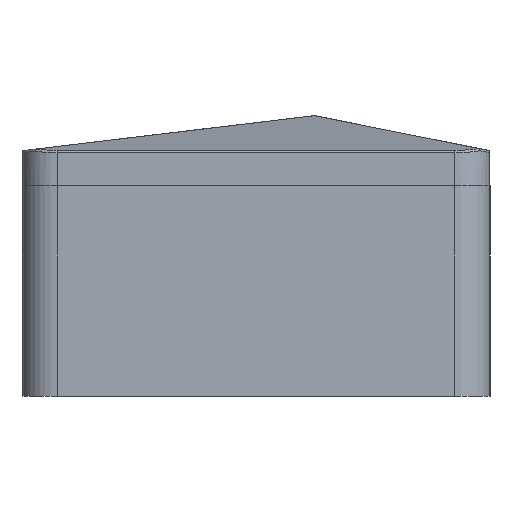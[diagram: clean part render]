
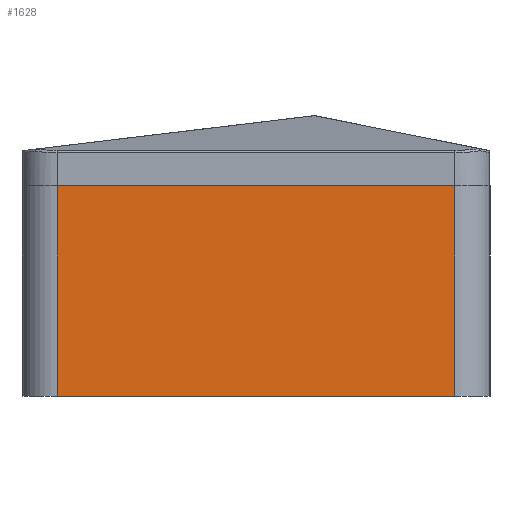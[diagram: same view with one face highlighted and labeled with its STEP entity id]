
A CAD part, left-side view. The second image highlights one B-rep face of the part: STEP entity #1628.
In plain terms, the highlighted planar face has unit normal (-1, 0, 0).
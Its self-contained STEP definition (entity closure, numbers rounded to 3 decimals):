
#16 = CARTESIAN_POINT ( 'NONE',  ( -71., -17., -9. ) ) ;
#30 = LINE ( 'NONE', #483, #2472 ) ;
#151 = DIRECTION ( 'NONE',  ( 0., 0., 1. ) ) ;
#201 = PLANE ( 'NONE',  #2237 ) ;
#226 = DIRECTION ( 'NONE',  ( 0., -1., 0. ) ) ;
#267 = LINE ( 'NONE', #1368, #2717 ) ;
#304 = CARTESIAN_POINT ( 'NONE',  ( -71., -17., 9. ) ) ;
#322 = VERTEX_POINT ( 'NONE', #2385 ) ;
#344 = VECTOR ( 'NONE', #151, 1000. ) ;
#364 = ORIENTED_EDGE ( 'NONE', *, *, #1855, .T. ) ;
#483 = CARTESIAN_POINT ( 'NONE',  ( -71., -20., 9. ) ) ;
#520 = EDGE_CURVE ( 'NONE', #1651, #2366, #2445, .T. ) ;
#608 = VECTOR ( 'NONE', #226, 1000. ) ;
#632 = CARTESIAN_POINT ( 'NONE',  ( -71., -17., 9. ) ) ;
#920 = DIRECTION ( 'NONE',  ( 0., 0., -1. ) ) ;
#1109 = VERTEX_POINT ( 'NONE', #304 ) ;
#1368 = CARTESIAN_POINT ( 'NONE',  ( -71., 17., 9. ) ) ;
#1620 = CARTESIAN_POINT ( 'NONE',  ( -71., -20., 9. ) ) ;
#1628 = ADVANCED_FACE ( 'NONE', ( #2752 ), #201, .F. ) ;
#1651 = VERTEX_POINT ( 'NONE', #2812 ) ;
#1719 = EDGE_CURVE ( 'NONE', #322, #1109, #30, .T. ) ;
#1837 = EDGE_CURVE ( 'NONE', #2366, #1109, #2243, .T. ) ;
#1855 = EDGE_CURVE ( 'NONE', #322, #1651, #267, .T. ) ;
#2229 = CARTESIAN_POINT ( 'NONE',  ( -71., -20., -9. ) ) ;
#2237 = AXIS2_PLACEMENT_3D ( 'NONE', #1620, #2343, #920 ) ;
#2243 = LINE ( 'NONE', #632, #344 ) ;
#2253 = DIRECTION ( 'NONE',  ( 0., -1., 0. ) ) ;
#2335 = ORIENTED_EDGE ( 'NONE', *, *, #1837, .T. ) ;
#2343 = DIRECTION ( 'NONE',  ( 1., 0., 0. ) ) ;
#2366 = VERTEX_POINT ( 'NONE', #16 ) ;
#2385 = CARTESIAN_POINT ( 'NONE',  ( -71., 17., 9. ) ) ;
#2445 = LINE ( 'NONE', #2229, #608 ) ;
#2472 = VECTOR ( 'NONE', #2253, 1000. ) ;
#2717 = VECTOR ( 'NONE', #2780, 1000. ) ;
#2735 = ORIENTED_EDGE ( 'NONE', *, *, #1719, .F. ) ;
#2752 = FACE_OUTER_BOUND ( 'NONE', #2916, .T. ) ;
#2780 = DIRECTION ( 'NONE',  ( 0., 0., -1. ) ) ;
#2812 = CARTESIAN_POINT ( 'NONE',  ( -71., 17., -9. ) ) ;
#2843 = ORIENTED_EDGE ( 'NONE', *, *, #520, .T. ) ;
#2916 = EDGE_LOOP ( 'NONE', ( #2843, #2335, #2735, #364 ) ) ;
